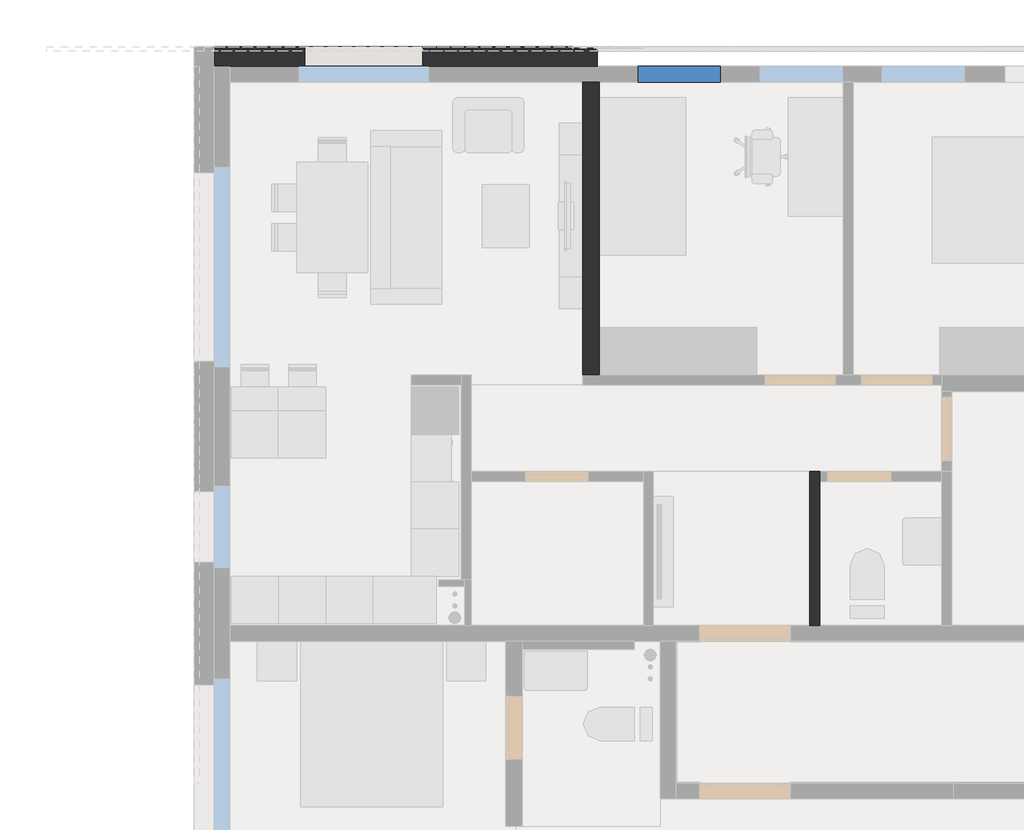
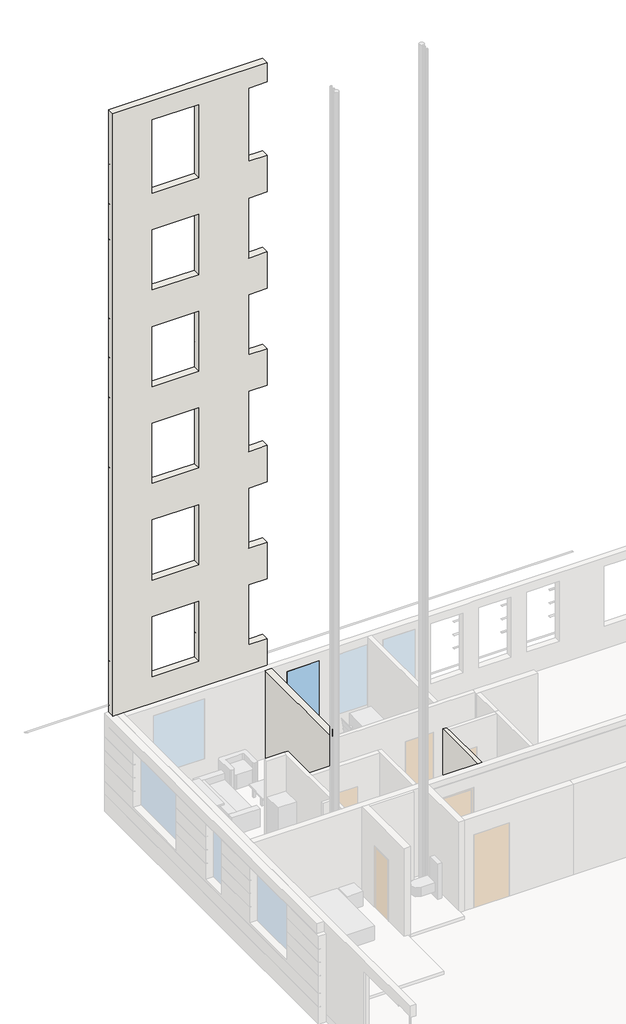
# One storey, part 4 of 11: 3 walls, 1 window.
"""IFC4 building model written with IfcOpenShell, lengths in millimetres."""

from ifc_helpers import new_model, si_unit, frame, origin, place, context, project, spatial, polyline, outline, extrude, faceted_brep, transform, mapped, element, save
from components import window_588b83ed

model = new_model("IFC4")

# Units and contexts
model_context = context("Model", 3, world=origin())
ifc_project = project(units=[si_unit("LENGTHUNIT", "METRE", prefix="MILLI")], contexts=[model_context])

# Site, building, storey
site = spatial("IfcSite", under=ifc_project)
building = spatial("IfcBuilding", under=site)
storey = spatial("IfcBuildingStorey", under=building, Name="02_+4,400_Ж", Elevation=1200.0)

# Walls
placement = place(None, origin())
element("IfcWall", 1, ObjectType="BW_THR_EXT_180+60+10=250_2-9 эт минплита под вентфасад и КГ-------", at=placement, inside=storey, context=model_context, shape_type="Brep", body=[
    faceted_brep([(133840.0000001, 128049.9999987, 850.0), (128980.0000001, 128049.9999987, 850.0), (128980.0000001, 128049.9999987, 1425.0), (133840.0000001, 128049.9999987, 1425.0), (128855.0000001, 128049.9999987, 24750.0), (133840.0000001, 128049.9999987, 24750.0), (133840.0000001, 128049.9999987, 24710.0), (128855.0000001, 128049.9999987, 24710.0), (128855.0000001, 128049.9999987, 24705.0), (133840.0000001, 128049.9999987, 24705.0), (133840.0000001, 128049.9999987, 24105.0), (128855.0000001, 128049.9999987, 24105.0), (128855.0000001, 128049.9999987, 24100.0), (130130.0000001, 128049.9999987, 24100.0), (130130.0000001, 128049.9999987, 23840.0), (128855.0000001, 128049.9999987, 23840.0), (131630.0000001, 128049.9999987, 24100.0), (133230.0000001, 128049.9999987, 24100.0), (133230.0000001, 128049.9999987, 23840.0), (131630.0000001, 128049.9999987, 23840.0), (131630.0000001, 128049.9999987, 23835.0), (133230.0000001, 128049.9999987, 23835.0), (133230.0000001, 128049.9999987, 23385.0), (131630.0000001, 128049.9999987, 23385.0), (131630.0000001, 128049.9999987, 23380.0), (133230.0000001, 128049.9999987, 23380.0), (133230.0000001, 128049.9999987, 22930.0), (131630.0000001, 128049.9999987, 22930.0), (131630.0000001, 128049.9999987, 22925.0), (133230.0000001, 128049.9999987, 22925.0), (133230.0000001, 128049.9999987, 22475.0), (131630.0000001, 128049.9999987, 22475.0), (131630.0000001, 128049.9999987, 22470.0), (133230.0000001, 128049.9999987, 22470.0), (133230.0000001, 128049.9999987, 22020.0), (131630.0000001, 128049.9999987, 22020.0), (131630.0000001, 128049.9999987, 22015.0), (133230.0000001, 128049.9999987, 22015.0), (133230.0000001, 128049.9999987, 21600.0), (133840.0000001, 128049.9999987, 21600.0), (133840.0000001, 128049.9999987, 21565.0), (128855.0000001, 128049.9999987, 21565.0), (128855.0000001, 128049.9999987, 22015.0), (130130.0000001, 128049.9999987, 22015.0), (130130.0000001, 128049.9999987, 21600.0), (131630.0000001, 128049.9999987, 21600.0), (128855.0000001, 128049.9999987, 21560.0), (133840.0000001, 128049.9999987, 21560.0), (133840.0000001, 128049.9999987, 20960.0), (128855.0000001, 128049.9999987, 20960.0), (128855.0000001, 128049.9999987, 20955.0), (133840.0000001, 128049.9999987, 20955.0), (133840.0000001, 128049.9999987, 20355.0), (128855.0000001, 128049.9999987, 20355.0), (128855.0000001, 128049.9999987, 20350.0), (130130.0000001, 128049.9999987, 20350.0), (130130.0000001, 128049.9999987, 20085.0), (128855.0000001, 128049.9999987, 20085.0), (128855.0000001, 128049.9999987, 20087.0), (131630.0000001, 128049.9999987, 20350.0), (132330.0000001, 128049.9999987, 20350.0), (132330.0000001, 128049.9999987, 20085.0), (131630.0000001, 128049.9999987, 20085.0), (131630.0000001, 128049.9999987, 20080.0), (132330.0000001, 128049.9999987, 20080.0), (132330.0000001, 128049.9999987, 19630.0), (131630.0000001, 128049.9999987, 19630.0), (131630.0000001, 128049.9999987, 19625.0), (132330.0000001, 128049.9999987, 19625.0), (132330.0000001, 128049.9999987, 19175.0), (131630.0000001, 128049.9999987, 19175.0), (131630.0000001, 128049.9999987, 19170.0), (132330.0000001, 128049.9999987, 19170.0), (132330.0000001, 128049.9999987, 18720.0), (131630.0000001, 128049.9999987, 18720.0), (131630.0000001, 128049.9999987, 18715.0), (132330.0000001, 128049.9999987, 18715.0), (132330.0000001, 128049.9999987, 18265.0), (128855.0000001, 128049.9999987, 18265.0), (128855.0000001, 128049.9999987, 18715.0), (130130.0000001, 128049.9999987, 18715.0), (130130.0000001, 128049.9999987, 18300.0), (131630.0000001, 128049.9999987, 18300.0), (128855.0000001, 128049.9999987, 18260.0), (133840.0000001, 128049.9999987, 18260.0), (133840.0000001, 128049.9999987, 17660.0), (128855.0000001, 128049.9999987, 17660.0), (128855.0000001, 128049.9999987, 17655.0), (133840.0000001, 128049.9999987, 17655.0), (133840.0000001, 128049.9999987, 17055.0), (128855.0000001, 128049.9999987, 17055.0), (128855.0000001, 128049.9999987, 17050.0), (130130.0000001, 128049.9999987, 17050.0), (130130.0000001, 128049.9999987, 16785.0), (128855.0000001, 128049.9999987, 16785.0), (132530.0000001, 128049.9999987, 17050.0), (133230.0000001, 128049.9999987, 17050.0), (133230.0000001, 128049.9999987, 16785.0), (132530.0000001, 128049.9999987, 16785.0), (132530.0000001, 128049.9999987, 16325.0), (133230.0000001, 128049.9999987, 16325.0), (133230.0000001, 128049.9999987, 15875.0), (132530.0000001, 128049.9999987, 15875.0), (133230.0000001, 128049.9999987, 16330.0), (132530.0000001, 128049.9999987, 16330.0), (132530.0000001, 128049.9999987, 16780.0), (133230.0000001, 128049.9999987, 16780.0), (132530.0000001, 128049.9999987, 15415.0), (133230.0000001, 128049.9999987, 15415.0), (133230.0000001, 128049.9999987, 15000.0), (133840.0000001, 128049.9999987, 15000.0), (133840.0000001, 128049.9999987, 14965.0), (132530.0000001, 128049.9999987, 14965.0), (133230.0000001, 128049.9999987, 15420.0), (132530.0000001, 128049.9999987, 15420.0), (132530.0000001, 128049.9999987, 15870.0), (133230.0000001, 128049.9999987, 15870.0), (128855.0000001, 128049.9999987, 14960.0), (133840.0000001, 128049.9999987, 14960.0), (133840.0000001, 128049.9999987, 14360.0), (128855.0000001, 128049.9999987, 14360.0), (131630.0000001, 128049.9999987, 14965.0), (128855.0000001, 128049.9999987, 14965.0), (128855.0000001, 128049.9999987, 15415.0), (130130.0000001, 128049.9999987, 15415.0), (130130.0000001, 128049.9999987, 15000.0), (131630.0000001, 128049.9999987, 15000.0), (128855.0000001, 128049.9999987, 14355.0), (133840.0000001, 128049.9999987, 14355.0), (133840.0000001, 128049.9999987, 13755.0), (128855.0000001, 128049.9999987, 13755.0), (128855.0000001, 128049.9999987, 13750.0), (130130.0000001, 128049.9999987, 13750.0), (130130.0000001, 128049.9999987, 13485.0), (128855.0000001, 128049.9999987, 13485.0), (131630.0000001, 128049.9999987, 13750.0), (133230.0000001, 128049.9999987, 13750.0), (133230.0000001, 128049.9999987, 13485.0), (131630.0000001, 128049.9999987, 13485.0), (131630.0000001, 128049.9999987, 13480.0), (133230.0000001, 128049.9999987, 13480.0), (133230.0000001, 128049.9999987, 13030.0), (131630.0000001, 128049.9999987, 13030.0), (131630.0000001, 128049.9999987, 13025.0), (133230.0000001, 128049.9999987, 13025.0), (133230.0000001, 128049.9999987, 12575.0), (131630.0000001, 128049.9999987, 12575.0), (131630.0000001, 128049.9999987, 12570.0), (133230.0000001, 128049.9999987, 12570.0), (133230.0000001, 128049.9999987, 12120.0), (131630.0000001, 128049.9999987, 12120.0), (131630.0000001, 128049.9999987, 12115.0), (133230.0000001, 128049.9999987, 12115.0), (133230.0000001, 128049.9999987, 11700.0), (133840.0000001, 128049.9999987, 11700.0), (133840.0000001, 128049.9999987, 11665.0), (128855.0000001, 128049.9999987, 11665.0), (128855.0000001, 128049.9999987, 12115.0), (130130.0000001, 128049.9999987, 12115.0), (130130.0000001, 128049.9999987, 11700.0), (131630.0000001, 128049.9999987, 11700.0), (128855.0000001, 128049.9999987, 11660.0), (133840.0000001, 128049.9999987, 11660.0), (133840.0000001, 128049.9999987, 11060.0), (128855.0000001, 128049.9999987, 11060.0), (128855.0000001, 128049.9999987, 11055.0), (133840.0000001, 128049.9999987, 11055.0), (133840.0000001, 128049.9999987, 10455.0), (128855.0000001, 128049.9999987, 10455.0), (128855.0000001, 128049.9999987, 10450.0), (130130.0000001, 128049.9999987, 10450.0), (130130.0000001, 128049.9999987, 10185.0), (128855.0000001, 128049.9999987, 10185.0), (131630.0000001, 128049.9999987, 10450.0), (133230.0000001, 128049.9999987, 10450.0), (133230.0000001, 128049.9999987, 10185.0), (131630.0000001, 128049.9999987, 10185.0), (131630.0000001, 128049.9999987, 10180.0), (133230.0000001, 128049.9999987, 10180.0), (133230.0000001, 128049.9999987, 9730.0), (131630.0000001, 128049.9999987, 9730.0), (131630.0000001, 128049.9999987, 9725.0), (133230.0000001, 128049.9999987, 9725.0), (133230.0000001, 128049.9999987, 9275.0), (131630.0000001, 128049.9999987, 9275.0), (131630.0000001, 128049.9999987, 9270.0), (133230.0000001, 128049.9999987, 9270.0), (133230.0000001, 128049.9999987, 8820.0), (131630.0000001, 128049.9999987, 8820.0), (131630.0000001, 128049.9999987, 8815.0), (133230.0000001, 128049.9999987, 8815.0), (133230.0000001, 128049.9999987, 8400.0), (133840.0000001, 128049.9999987, 8400.0), (133840.0000001, 128049.9999987, 8365.0), (128855.0000001, 128049.9999987, 8365.0), (128855.0000001, 128049.9999987, 8815.0), (130130.0000001, 128049.9999987, 8815.0), (130130.0000001, 128049.9999987, 8400.0), (131630.0000001, 128049.9999987, 8400.0), (128855.0000001, 128049.9999987, 8360.0), (133840.0000001, 128049.9999987, 8360.0), (133840.0000001, 128049.9999987, 7760.0), (128855.0000001, 128049.9999987, 7760.0), (128855.0000001, 128049.9999987, 7755.0), (133840.0000001, 128049.9999987, 7755.0), (133840.0000001, 128049.9999987, 7155.0), (128855.0000001, 128049.9999987, 7155.0), (128855.0000001, 128049.9999987, 7150.0), (130130.0000001, 128049.9999987, 7150.0), (130130.0000001, 128049.9999987, 6885.0), (128855.0000001, 128049.9999987, 6885.0), (131630.0000001, 128049.9999987, 7150.0), (133230.0000001, 128049.9999987, 7150.0), (133230.0000001, 128049.9999987, 6885.0), (131630.0000001, 128049.9999987, 6885.0), (131630.0000001, 128049.9999987, 6880.0), (133230.0000001, 128049.9999987, 6880.0), (133230.0000001, 128049.9999987, 6430.0), (131630.0000001, 128049.9999987, 6430.0), (131630.0000001, 128049.9999987, 6425.0), (133230.0000001, 128049.9999987, 6425.0), (133230.0000001, 128049.9999987, 5975.0), (131630.0000001, 128049.9999987, 5975.0), (131630.0000001, 128049.9999987, 5970.0), (133230.0000001, 128049.9999987, 5970.0), (133230.0000001, 128049.9999987, 5520.0), (131630.0000001, 128049.9999987, 5520.0), (131630.0000001, 128049.9999987, 5515.0), (133230.0000001, 128049.9999987, 5515.0), (133230.0000001, 128049.9999987, 5100.0), (133840.0000001, 128049.9999987, 5100.0), (133840.0000001, 128049.9999987, 5065.0), (128855.0000001, 128049.9999987, 5065.0), (128855.0000001, 128049.9999987, 5515.0), (130130.0000001, 128049.9999987, 5515.0), (130130.0000001, 128049.9999987, 5100.0), (131630.0000001, 128049.9999987, 5100.0), (128855.0000001, 128049.9999987, 5060.0), (133840.0000001, 128049.9999987, 5060.0), (133840.0000001, 128049.9999987, 4460.0), (128855.0000001, 128049.9999987, 4460.0), (128855.0000001, 128049.9999987, 4455.0), (133840.0000001, 128049.9999987, 4455.0), (133840.0000001, 128049.9999987, 3855.0), (128980.0000001, 128049.9999987, 3855.0), (128980.0000001, 128049.9999987, 4200.0), (128855.0000001, 128049.9999987, 4200.0), (128980.0000001, 128049.9999987, 3850.0), (130130.0000001, 128049.9999987, 3850.0), (130130.0000001, 128049.9999987, 3400.0), (128980.0000001, 128049.9999987, 3400.0), (131630.0000001, 128049.9999987, 3395.0), (133530.0000001, 128049.9999987, 3395.0), (133530.0000001, 128049.9999987, 2945.0), (131630.0000001, 128049.9999987, 2945.0), (133530.0000001, 128049.9999987, 3400.0), (131630.0000001, 128049.9999987, 3400.0), (131630.0000001, 128049.9999987, 3850.0), (133530.0000001, 128049.9999987, 3850.0), (131630.0000001, 128049.9999987, 2940.0), (133530.0000001, 128049.9999987, 2940.0), (133530.0000001, 128049.9999987, 2490.0), (131630.0000001, 128049.9999987, 2490.0), (131630.0000001, 128049.9999987, 2485.0), (133530.0000001, 128049.9999987, 2485.0), (133530.0000001, 128049.9999987, 1885.0), (128980.0000001, 128049.9999987, 1885.0), (128980.0000001, 128049.9999987, 2485.0), (130130.0000001, 128049.9999987, 2485.0), (130130.0000001, 128049.9999987, 1950.0), (131630.0000001, 128049.9999987, 1950.0), (128980.0000001, 128049.9999987, 1880.0), (133840.0000001, 128049.9999987, 1880.0), (133840.0000001, 128049.9999987, 1430.0), (128980.0000001, 128049.9999987, 1430.0), (128980.0000001, 128049.9999987, 3395.0), (130130.0000001, 128049.9999987, 3395.0), (130130.0000001, 128049.9999987, 2945.0), (128980.0000001, 128049.9999987, 2945.0), (128980.0000001, 128049.9999987, 2940.0), (130130.0000001, 128049.9999987, 2940.0), (130130.0000001, 128049.9999987, 2490.0), (128980.0000001, 128049.9999987, 2490.0), (130130.0000001, 128049.9999987, 19630.0), (128855.0000001, 128049.9999987, 19630.0), (128855.0000001, 128049.9999987, 20080.0), (130130.0000001, 128049.9999987, 20080.0), (128855.0000001, 128049.9999987, 19625.0), (130130.0000001, 128049.9999987, 19625.0), (130130.0000001, 128049.9999987, 19175.0), (128855.0000001, 128049.9999987, 19175.0), (130130.0000001, 128049.9999987, 18720.0), (128855.0000001, 128049.9999987, 18720.0), (128855.0000001, 128049.9999987, 19170.0), (130130.0000001, 128049.9999987, 19170.0), (128855.0000001, 128049.9999987, 16780.0), (130130.0000001, 128049.9999987, 16780.0), (130130.0000001, 128049.9999987, 16330.0), (128855.0000001, 128049.9999987, 16330.0), (128855.0000001, 128049.9999987, 16325.0), (130130.0000001, 128049.9999987, 16325.0), (130130.0000001, 128049.9999987, 15875.0), (128855.0000001, 128049.9999987, 15875.0), (128855.0000001, 128049.9999987, 15870.0), (130130.0000001, 128049.9999987, 15870.0), (130130.0000001, 128049.9999987, 15420.0), (128855.0000001, 128049.9999987, 15420.0), (128855.0000001, 128049.9999987, 13480.0), (130130.0000001, 128049.9999987, 13480.0), (130130.0000001, 128049.9999987, 13030.0), (128855.0000001, 128049.9999987, 13030.0), (128855.0000001, 128049.9999987, 13025.0), (130130.0000001, 128049.9999987, 13025.0), (130130.0000001, 128049.9999987, 12575.0), (128855.0000001, 128049.9999987, 12575.0), (128855.0000001, 128049.9999987, 12570.0), (130130.0000001, 128049.9999987, 12570.0), (130130.0000001, 128049.9999987, 12120.0), (128855.0000001, 128049.9999987, 12120.0), (128855.0000001, 128049.9999987, 6880.0), (130130.0000001, 128049.9999987, 6880.0), (130130.0000001, 128049.9999987, 6430.0), (128855.0000001, 128049.9999987, 6430.0), (128855.0000001, 128049.9999987, 6425.0), (130130.0000001, 128049.9999987, 6425.0), (130130.0000001, 128049.9999987, 5975.0), (128855.0000001, 128049.9999987, 5975.0), (128855.0000001, 128049.9999987, 5970.0), (130130.0000001, 128049.9999987, 5970.0), (130130.0000001, 128049.9999987, 5520.0), (128855.0000001, 128049.9999987, 5520.0), (128855.0000001, 128049.9999987, 23835.0), (130130.0000001, 128049.9999987, 23835.0), (130130.0000001, 128049.9999987, 23385.0), (128855.0000001, 128049.9999987, 23385.0), (128855.0000001, 128049.9999987, 23380.0), (130130.0000001, 128049.9999987, 23380.0), (130130.0000001, 128049.9999987, 22930.0), (128855.0000001, 128049.9999987, 22930.0), (128855.0000001, 128049.9999987, 22925.0), (130130.0000001, 128049.9999987, 22925.0), (130130.0000001, 128049.9999987, 22475.0), (128855.0000001, 128049.9999987, 22475.0), (128855.0000001, 128049.9999987, 22470.0), (130130.0000001, 128049.9999987, 22470.0), (130130.0000001, 128049.9999987, 22020.0), (128855.0000001, 128049.9999987, 22020.0), (128855.0000001, 128049.9999987, 9730.0), (128855.0000001, 128049.9999987, 10180.0), (130130.0000001, 128049.9999987, 10180.0), (130130.0000001, 128049.9999987, 9730.0), (128855.0000001, 128049.9999987, 9275.0), (128855.0000001, 128049.9999987, 9725.0), (130130.0000001, 128049.9999987, 9725.0), (130130.0000001, 128049.9999987, 9275.0), (128855.0000001, 128049.9999987, 8820.0), (128855.0000001, 128049.9999987, 9270.0), (130130.0000001, 128049.9999987, 9270.0), (130130.0000001, 128049.9999987, 8820.0), (133840.0000001, 128049.9999987, 18265.0), (133230.0000001, 128049.9999987, 18265.0), (133230.0000001, 128049.9999987, 18300.0), (133840.0000001, 128049.9999987, 18300.0), (128980.0000001, 127799.9999987, 850.0), (133840.0000001, 127799.9999987, 850.0), (133840.0000001, 127799.9999987, 5030.0), (133840.0000001, 127799.9999987, 5100.0), (133230.0000001, 127799.9999987, 5100.0), (133230.0000001, 127799.9999987, 7150.0), (133840.0000001, 127799.9999987, 7150.0), (133840.0000001, 127799.9999987, 7220.0), (133840.0000001, 127799.9999987, 8330.0), (133840.0000001, 127799.9999987, 8400.0), (133230.0000001, 127799.9999987, 8400.0), (133230.0000001, 127799.9999987, 10450.0), (133840.0000001, 127799.9999987, 10450.0), (133840.0000001, 127799.9999987, 10520.0), (133840.0000001, 127799.9999987, 11630.0), (133840.0000001, 127799.9999987, 11700.0), (133230.0000001, 127799.9999987, 11700.0), (133230.0000001, 127799.9999987, 13750.0), (133840.0000001, 127799.9999987, 13750.0), (133840.0000001, 127799.9999987, 13820.0), (133840.0000001, 127799.9999987, 14930.0), (133840.0000001, 127799.9999987, 15000.0), (133230.0000001, 127799.9999987, 15000.0), (133230.0000001, 127799.9999987, 17050.0), (133840.0000001, 127799.9999987, 17050.0), (133840.0000001, 127799.9999987, 17120.0), (133840.0000001, 127799.9999987, 18230.0), (133840.0000001, 127799.9999987, 18300.0), (133230.0000001, 127799.9999987, 18300.0), (133230.0000001, 127799.9999987, 20350.0), (133840.0000001, 127799.9999987, 20350.0), (133840.0000001, 127799.9999987, 20420.0), (133840.0000001, 127799.9999987, 21530.0), (133840.0000001, 127799.9999987, 21600.0), (133230.0000001, 127799.9999987, 21600.0), (133230.0000001, 127799.9999987, 24100.0), (133840.0000001, 127799.9999987, 24100.0), (133840.0000001, 127799.9999987, 24170.0), (133840.0000001, 127799.9999987, 24750.0), (128855.0000001, 127799.9999987, 24750.0), (128855.0000001, 127799.9999987, 4200.0), (128980.0000001, 127799.9999987, 4200.0), (130130.0000001, 127799.9999987, 17050.0), (131630.0000001, 127799.9999987, 17050.0), (131630.0000001, 127799.9999987, 15000.0), (130130.0000001, 127799.9999987, 15000.0), (130130.0000001, 127799.9999987, 20350.0), (131630.0000001, 127799.9999987, 20350.0), (131630.0000001, 127799.9999987, 18300.0), (130130.0000001, 127799.9999987, 18300.0), (130130.0000001, 127799.9999987, 10450.0), (131630.0000001, 127799.9999987, 10450.0), (131630.0000001, 127799.9999987, 8400.0), (130130.0000001, 127799.9999987, 8400.0), (130130.0000001, 127799.9999987, 24100.0), (131630.0000001, 127799.9999987, 24100.0), (131630.0000001, 127799.9999987, 21600.0), (130130.0000001, 127799.9999987, 21600.0), (130130.0000001, 127799.9999987, 13750.0), (131630.0000001, 127799.9999987, 13750.0), (131630.0000001, 127799.9999987, 11700.0), (130130.0000001, 127799.9999987, 11700.0), (130130.0000001, 127799.9999987, 7150.0), (131630.0000001, 127799.9999987, 7150.0), (131630.0000001, 127799.9999987, 5100.0), (130130.0000001, 127799.9999987, 5100.0), (130130.0000001, 127799.9999987, 3850.0), (131630.0000001, 127799.9999987, 3850.0), (131630.0000001, 127799.9999987, 1950.0), (130130.0000001, 127799.9999987, 1950.0), (133840.0000001, 127989.9999987, 24100.0), (133840.0000001, 127989.9999987, 24105.0), (133840.0000001, 127989.9999987, 24705.0), (133840.0000001, 127989.9999987, 24710.0), (133840.0000001, 127989.9999987, 1425.0), (133840.0000001, 127989.9999987, 1430.0), (133840.0000001, 127989.9999987, 1880.0), (133840.0000001, 127989.9999987, 1885.0), (133840.0000001, 128029.9999987, 1885.0), (133840.0000001, 128029.9999987, 2485.0), (133840.0000001, 127989.9999987, 2485.0), (133840.0000001, 127989.9999987, 2490.0), (133840.0000001, 128029.9999987, 2490.0), (133840.0000001, 128029.9999987, 3395.0), (133840.0000001, 127989.9999987, 3395.0), (133840.0000001, 127989.9999987, 3400.0), (133840.0000001, 128029.9999987, 3400.0), (133840.0000001, 128029.9999987, 3850.0), (133840.0000001, 127989.9999987, 3850.0), (133840.0000001, 127989.9999987, 3855.0), (133840.0000001, 127989.9999987, 4455.0), (133840.0000001, 127989.9999987, 4460.0), (133840.0000001, 127989.9999987, 5060.0), (133840.0000001, 127989.9999987, 5065.0), (133840.0000001, 127989.9999987, 21560.0), (133840.0000001, 127989.9999987, 21565.0), (133840.0000001, 127989.9999987, 20350.0), (133840.0000001, 127989.9999987, 20355.0), (133840.0000001, 127989.9999987, 20955.0), (133840.0000001, 127989.9999987, 20960.0), (133840.0000001, 127989.9999987, 18260.0), (133840.0000001, 127989.9999987, 18265.0), (133840.0000001, 127989.9999987, 17050.0), (133840.0000001, 127989.9999987, 17055.0), (133840.0000001, 127989.9999987, 17655.0), (133840.0000001, 127989.9999987, 17660.0), (133840.0000001, 127989.9999987, 14960.0), (133840.0000001, 127989.9999987, 14965.0), (133840.0000001, 127989.9999987, 13750.0), (133840.0000001, 127989.9999987, 13755.0), (133840.0000001, 127989.9999987, 14355.0), (133840.0000001, 127989.9999987, 14360.0), (133840.0000001, 127989.9999987, 11660.0), (133840.0000001, 127989.9999987, 11665.0), (133840.0000001, 127989.9999987, 10450.0), (133840.0000001, 127989.9999987, 10455.0), (133840.0000001, 127989.9999987, 11055.0), (133840.0000001, 127989.9999987, 11060.0), (133840.0000001, 127989.9999987, 8360.0), (133840.0000001, 127989.9999987, 8365.0), (133840.0000001, 127989.9999987, 7150.0), (133840.0000001, 127989.9999987, 7155.0), (133840.0000001, 127989.9999987, 7755.0), (133840.0000001, 127989.9999987, 7760.0), (128855.0000001, 127989.9999987, 24705.0), (128855.0000001, 127989.9999987, 24710.0), (128855.0000001, 127989.9999987, 24100.0), (130130.0000001, 127989.9999987, 24100.0), (131630.0000001, 127989.9999987, 24100.0), (133230.0000001, 127989.9999987, 24100.0), (128855.0000001, 127989.9999987, 24105.0), (131630.0000001, 127989.9999987, 23835.0), (133230.0000001, 127989.9999987, 23835.0), (131630.0000001, 127989.9999987, 23840.0), (133230.0000001, 127989.9999987, 23840.0), (131630.0000001, 127989.9999987, 23380.0), (133230.0000001, 127989.9999987, 23380.0), (131630.0000001, 127989.9999987, 23385.0), (133230.0000001, 127989.9999987, 23385.0), (131630.0000001, 127989.9999987, 22925.0), (133230.0000001, 127989.9999987, 22925.0), (131630.0000001, 127989.9999987, 22930.0), (133230.0000001, 127989.9999987, 22930.0), (131630.0000001, 127989.9999987, 22470.0), (133230.0000001, 127989.9999987, 22470.0), (131630.0000001, 127989.9999987, 22475.0), (133230.0000001, 127989.9999987, 22475.0), (131630.0000001, 127989.9999987, 22015.0), (133230.0000001, 127989.9999987, 22015.0), (131630.0000001, 127989.9999987, 22020.0), (133230.0000001, 127989.9999987, 22020.0), (128855.0000001, 127989.9999987, 21560.0), (128855.0000001, 127989.9999987, 21565.0), (128855.0000001, 127989.9999987, 20955.0), (128855.0000001, 127989.9999987, 20960.0), (128855.0000001, 127989.9999987, 20350.0), (130130.0000001, 127989.9999987, 20350.0), (131630.0000001, 127989.9999987, 20350.0), (133230.0000001, 127989.9999987, 20350.0), (133230.0000001, 128029.9999987, 20350.0), (132330.0000001, 128029.9999987, 20350.0), (128855.0000001, 127989.9999987, 20355.0), (131630.0000001, 127989.9999987, 20080.0), (133230.0000001, 127989.9999987, 20080.0), (133230.0000001, 128029.9999987, 20080.0), (132330.0000001, 128029.9999987, 20080.0), (131630.0000001, 127989.9999987, 20085.0), (133230.0000001, 127989.9999987, 20085.0), (132330.0000001, 128029.9999987, 20085.0), (133230.0000001, 128029.9999987, 20085.0), (132330.0000001, 127989.9999987, 19625.0), (132330.0000001, 127989.9999987, 19630.0), (132330.0000001, 128029.9999987, 19630.0), (132330.0000001, 128029.9999987, 19625.0), (131630.0000001, 127989.9999987, 19625.0), (131630.0000001, 127989.9999987, 19630.0), (131630.0000001, 127989.9999987, 19170.0), (133230.0000001, 127989.9999987, 19170.0), (133230.0000001, 128029.9999987, 19170.0), (132330.0000001, 128029.9999987, 19170.0), (131630.0000001, 127989.9999987, 19175.0), (133230.0000001, 127989.9999987, 19175.0), (132330.0000001, 128029.9999987, 19175.0), (133230.0000001, 128029.9999987, 19175.0), (132330.0000001, 127989.9999987, 18715.0), (132330.0000001, 127989.9999987, 18720.0), (132330.0000001, 128029.9999987, 18720.0), (132330.0000001, 128029.9999987, 18715.0), (131630.0000001, 127989.9999987, 18715.0), (131630.0000001, 127989.9999987, 18720.0), (128855.0000001, 127989.9999987, 18260.0), (128855.0000001, 127989.9999987, 18265.0), (132330.0000001, 128029.9999987, 18265.0), (133230.0000001, 128029.9999987, 18265.0), (128855.0000001, 127989.9999987, 17655.0), (128855.0000001, 127989.9999987, 17660.0), (128855.0000001, 127989.9999987, 17050.0), (130130.0000001, 127989.9999987, 17050.0), (132530.0000001, 128029.9999987, 17050.0), (131630.0000001, 128029.9999987, 17050.0), (131630.0000001, 127989.9999987, 17050.0), (133230.0000001, 127989.9999987, 17050.0), (128855.0000001, 127989.9999987, 17055.0), (131630.0000001, 127989.9999987, 16780.0), (133230.0000001, 127989.9999987, 16780.0), (132530.0000001, 128029.9999987, 16780.0), (131630.0000001, 128029.9999987, 16780.0), (131630.0000001, 127989.9999987, 16785.0), (133230.0000001, 127989.9999987, 16785.0), (131630.0000001, 128029.9999987, 16785.0), (132530.0000001, 128029.9999987, 16785.0), (132530.0000001, 127989.9999987, 16330.0), (132530.0000001, 127989.9999987, 16325.0), (132530.0000001, 128029.9999987, 16325.0), (132530.0000001, 128029.9999987, 16330.0), (133230.0000001, 127989.9999987, 16325.0), (133230.0000001, 127989.9999987, 16330.0), (131630.0000001, 127989.9999987, 15870.0), (133230.0000001, 127989.9999987, 15870.0), (132530.0000001, 128029.9999987, 15870.0), (131630.0000001, 128029.9999987, 15870.0), (131630.0000001, 127989.9999987, 15875.0), (133230.0000001, 127989.9999987, 15875.0), (131630.0000001, 128029.9999987, 15875.0), (132530.0000001, 128029.9999987, 15875.0), (132530.0000001, 127989.9999987, 15420.0), (132530.0000001, 127989.9999987, 15415.0), (132530.0000001, 128029.9999987, 15415.0), (132530.0000001, 128029.9999987, 15420.0), (133230.0000001, 127989.9999987, 15415.0), (133230.0000001, 127989.9999987, 15420.0), (128855.0000001, 127989.9999987, 14960.0), (128855.0000001, 127989.9999987, 14965.0), (131630.0000001, 128029.9999987, 14965.0), (132530.0000001, 128029.9999987, 14965.0), (128855.0000001, 127989.9999987, 14355.0), (128855.0000001, 127989.9999987, 14360.0), (128855.0000001, 127989.9999987, 13750.0), (130130.0000001, 127989.9999987, 13750.0), (131630.0000001, 127989.9999987, 13750.0), (133230.0000001, 127989.9999987, 13750.0), (128855.0000001, 127989.9999987, 13755.0), (131630.0000001, 127989.9999987, 13480.0), (133230.0000001, 127989.9999987, 13480.0), (131630.0000001, 127989.9999987, 13485.0), (133230.0000001, 127989.9999987, 13485.0), (131630.0000001, 127989.9999987, 13025.0), (133230.0000001, 127989.9999987, 13025.0), (131630.0000001, 127989.9999987, 13030.0), (133230.0000001, 127989.9999987, 13030.0), (131630.0000001, 127989.9999987, 12570.0), (133230.0000001, 127989.9999987, 12570.0), (131630.0000001, 127989.9999987, 12575.0), (133230.0000001, 127989.9999987, 12575.0), (131630.0000001, 127989.9999987, 12115.0), (133230.0000001, 127989.9999987, 12115.0), (131630.0000001, 127989.9999987, 12120.0), (133230.0000001, 127989.9999987, 12120.0), (128855.0000001, 127989.9999987, 11660.0), (128855.0000001, 127989.9999987, 11665.0), (128855.0000001, 127989.9999987, 11055.0), (128855.0000001, 127989.9999987, 11060.0), (128855.0000001, 127989.9999987, 10450.0), (130130.0000001, 127989.9999987, 10450.0), (131630.0000001, 127989.9999987, 10450.0), (133230.0000001, 127989.9999987, 10450.0), (128855.0000001, 127989.9999987, 10455.0), (131630.0000001, 127989.9999987, 10180.0), (133230.0000001, 127989.9999987, 10180.0), (131630.0000001, 127989.9999987, 10185.0), (133230.0000001, 127989.9999987, 10185.0), (131630.0000001, 127989.9999987, 9725.0), (133230.0000001, 127989.9999987, 9725.0), (131630.0000001, 127989.9999987, 9730.0), (133230.0000001, 127989.9999987, 9730.0), (131630.0000001, 127989.9999987, 9270.0), (133230.0000001, 127989.9999987, 9270.0), (131630.0000001, 127989.9999987, 9275.0), (133230.0000001, 127989.9999987, 9275.0), (131630.0000001, 127989.9999987, 8815.0), (133230.0000001, 127989.9999987, 8815.0), (131630.0000001, 127989.9999987, 8820.0), (133230.0000001, 127989.9999987, 8820.0), (128855.0000001, 127989.9999987, 8360.0), (128855.0000001, 127989.9999987, 8365.0), (128855.0000001, 127989.9999987, 7755.0), (128855.0000001, 127989.9999987, 7760.0), (128855.0000001, 127989.9999987, 7150.0), (130130.0000001, 127989.9999987, 7150.0), (131630.0000001, 127989.9999987, 7150.0), (133230.0000001, 127989.9999987, 7150.0), (128855.0000001, 127989.9999987, 7155.0), (131630.0000001, 127989.9999987, 6880.0), (133230.0000001, 127989.9999987, 6880.0), (131630.0000001, 127989.9999987, 6885.0), (133230.0000001, 127989.9999987, 6885.0), (131630.0000001, 127989.9999987, 6425.0), (133230.0000001, 127989.9999987, 6425.0), (131630.0000001, 127989.9999987, 6430.0), (133230.0000001, 127989.9999987, 6430.0), (131630.0000001, 127989.9999987, 5970.0), (133230.0000001, 127989.9999987, 5970.0), (131630.0000001, 127989.9999987, 5975.0), (133230.0000001, 127989.9999987, 5975.0), (131630.0000001, 127989.9999987, 5515.0), (133230.0000001, 127989.9999987, 5515.0), (131630.0000001, 127989.9999987, 5520.0), (133230.0000001, 127989.9999987, 5520.0), (128855.0000001, 127989.9999987, 5060.0), (128855.0000001, 127989.9999987, 5065.0), (128855.0000001, 127989.9999987, 4455.0), (128855.0000001, 127989.9999987, 4460.0), (128980.0000001, 127989.9999987, 3850.0), (130130.0000001, 127989.9999987, 3850.0), (131630.0000001, 127989.9999987, 3850.0), (133530.0000001, 128029.9999987, 3850.0), (128980.0000001, 127989.9999987, 3855.0), (131630.0000001, 127989.9999987, 3395.0), (133530.0000001, 128029.9999987, 3395.0), (131630.0000001, 127989.9999987, 3400.0), (133530.0000001, 128029.9999987, 3400.0), (133530.0000001, 127989.9999987, 2940.0), (133530.0000001, 127989.9999987, 2945.0), (133530.0000001, 128029.9999987, 2945.0), (133530.0000001, 128029.9999987, 2940.0), (131630.0000001, 127989.9999987, 2940.0), (131630.0000001, 127989.9999987, 2945.0), (131630.0000001, 127989.9999987, 2485.0), (133530.0000001, 128029.9999987, 2485.0), (131630.0000001, 127989.9999987, 2490.0), (133530.0000001, 128029.9999987, 2490.0), (128980.0000001, 127989.9999987, 1880.0), (128980.0000001, 127989.9999987, 1885.0), (133530.0000001, 128029.9999987, 1885.0), (128980.0000001, 127989.9999987, 1425.0), (128980.0000001, 127989.9999987, 1430.0), (130130.0000001, 127989.9999987, 3400.0), (128980.0000001, 127989.9999987, 3400.0), (130130.0000001, 127989.9999987, 3395.0), (128980.0000001, 127989.9999987, 3395.0), (130130.0000001, 127989.9999987, 2945.0), (128980.0000001, 127989.9999987, 2945.0), (130130.0000001, 127989.9999987, 2940.0), (128980.0000001, 127989.9999987, 2940.0), (130130.0000001, 127989.9999987, 2490.0), (128980.0000001, 127989.9999987, 2490.0), (130130.0000001, 127989.9999987, 2485.0), (128980.0000001, 127989.9999987, 2485.0), (128855.0000001, 127989.9999987, 23840.0), (128855.0000001, 127989.9999987, 23835.0), (128855.0000001, 127989.9999987, 23385.0), (128855.0000001, 127989.9999987, 23380.0), (128855.0000001, 127989.9999987, 22930.0), (128855.0000001, 127989.9999987, 22925.0), (128855.0000001, 127989.9999987, 22475.0), (128855.0000001, 127989.9999987, 22470.0), (128855.0000001, 127989.9999987, 22020.0), (128855.0000001, 127989.9999987, 22015.0), (128855.0000001, 127989.9999987, 20085.0), (128855.0000001, 127989.9999987, 20082.0), (128855.0000001, 127989.9999987, 20080.0), (128855.0000001, 127989.9999987, 19630.0), (128855.0000001, 127989.9999987, 19625.0), (128855.0000001, 127989.9999987, 19175.0), (128855.0000001, 127989.9999987, 19170.0), (128855.0000001, 127989.9999987, 18720.0), (128855.0000001, 127989.9999987, 18715.0), (128855.0000001, 127989.9999987, 16785.0), (128855.0000001, 127989.9999987, 16780.0), (128855.0000001, 127989.9999987, 16330.0), (128855.0000001, 127989.9999987, 16325.0), (128855.0000001, 127989.9999987, 15875.0), (128855.0000001, 127989.9999987, 15870.0), (128855.0000001, 127989.9999987, 15420.0), (128855.0000001, 127989.9999987, 15415.0), (128855.0000001, 127989.9999987, 13485.0), (128855.0000001, 127989.9999987, 13480.0), (128855.0000001, 127989.9999987, 13030.0), (128855.0000001, 127989.9999987, 13025.0), (128855.0000001, 127989.9999987, 12575.0), (128855.0000001, 127989.9999987, 12570.0), (128855.0000001, 127989.9999987, 12120.0), (128855.0000001, 127989.9999987, 12115.0), (128855.0000001, 127989.9999987, 10185.0), (128855.0000001, 127989.9999987, 10180.0), (128855.0000001, 127989.9999987, 9730.0), (128855.0000001, 127989.9999987, 9725.0), (128855.0000001, 127989.9999987, 9275.0), (128855.0000001, 127989.9999987, 9270.0), (128855.0000001, 127989.9999987, 8820.0), (128855.0000001, 127989.9999987, 8815.0), (128855.0000001, 127989.9999987, 6885.0), (128855.0000001, 127989.9999987, 6880.0), (128855.0000001, 127989.9999987, 6430.0), (128855.0000001, 127989.9999987, 6425.0), (128855.0000001, 127989.9999987, 5975.0), (128855.0000001, 127989.9999987, 5970.0), (128855.0000001, 127989.9999987, 5520.0), (128855.0000001, 127989.9999987, 5515.0), (130130.0000001, 127989.9999987, 19630.0), (130130.0000001, 127989.9999987, 19625.0), (130130.0000001, 127989.9999987, 18720.0), (130130.0000001, 127989.9999987, 18715.0), (130130.0000001, 127989.9999987, 16785.0), (130130.0000001, 127989.9999987, 16780.0), (130130.0000001, 127989.9999987, 16330.0), (130130.0000001, 127989.9999987, 16325.0), (130130.0000001, 127989.9999987, 15875.0), (130130.0000001, 127989.9999987, 15870.0), (130130.0000001, 127989.9999987, 15420.0), (130130.0000001, 127989.9999987, 15415.0), (130130.0000001, 127989.9999987, 13485.0), (130130.0000001, 127989.9999987, 13480.0), (130130.0000001, 127989.9999987, 13030.0), (130130.0000001, 127989.9999987, 13025.0), (130130.0000001, 127989.9999987, 12575.0), (130130.0000001, 127989.9999987, 12570.0), (130130.0000001, 127989.9999987, 12120.0), (130130.0000001, 127989.9999987, 12115.0), (130130.0000001, 127989.9999987, 6885.0), (130130.0000001, 127989.9999987, 6880.0), (130130.0000001, 127989.9999987, 6430.0), (130130.0000001, 127989.9999987, 6425.0), (130130.0000001, 127989.9999987, 5975.0), (130130.0000001, 127989.9999987, 5970.0), (130130.0000001, 127989.9999987, 5520.0), (130130.0000001, 127989.9999987, 5515.0), (130130.0000001, 127989.9999987, 23840.0), (130130.0000001, 127989.9999987, 23835.0), (130130.0000001, 127989.9999987, 23385.0), (130130.0000001, 127989.9999987, 23380.0), (130130.0000001, 127989.9999987, 22930.0), (130130.0000001, 127989.9999987, 22925.0), (130130.0000001, 127989.9999987, 22475.0), (130130.0000001, 127989.9999987, 22470.0), (130130.0000001, 127989.9999987, 22020.0), (130130.0000001, 127989.9999987, 22015.0), (133230.0000001, 128029.9999987, 18300.0), (131630.0000001, 128029.9999987, 15000.0), (130130.0000001, 127989.9999987, 10185.0), (130130.0000001, 127989.9999987, 10180.0), (130130.0000001, 127989.9999987, 9730.0), (130130.0000001, 127989.9999987, 9725.0), (130130.0000001, 127989.9999987, 9275.0), (130130.0000001, 127989.9999987, 9270.0), (130130.0000001, 127989.9999987, 8820.0), (130130.0000001, 127989.9999987, 8815.0), (130130.0000001, 127989.9999987, 20085.0), (130130.0000001, 127989.9999987, 20080.0), (130130.0000001, 127989.9999987, 19175.0), (130130.0000001, 127989.9999987, 19170.0)], [[[0, 1, 2, 3]], [[4, 5, 6, 7]], [[8, 9, 10, 11]], [[12, 13, 14, 15]], [[16, 17, 18, 19]], [[20, 21, 22, 23]], [[24, 25, 26, 27]], [[28, 29, 30, 31]], [[32, 33, 34, 35]], [[36, 37, 38, 39, 40, 41, 42, 43, 44, 45]], [[46, 47, 48, 49]], [[50, 51, 52, 53]], [[54, 55, 56, 57, 58]], [[59, 60, 61, 62]], [[63, 64, 65, 66]], [[67, 68, 69, 70]], [[71, 72, 73, 74]], [[75, 76, 77, 78, 79, 80, 81, 82]], [[83, 84, 85, 86]], [[87, 88, 89, 90]], [[91, 92, 93, 94]], [[95, 96, 97, 98]], [[99, 100, 101, 102]], [[103, 104, 105, 106]], [[107, 108, 109, 110, 111, 112]], [[113, 114, 115, 116]], [[117, 118, 119, 120]], [[121, 122, 123, 124, 125, 126]], [[127, 128, 129, 130]], [[131, 132, 133, 134]], [[135, 136, 137, 138]], [[139, 140, 141, 142]], [[143, 144, 145, 146]], [[147, 148, 149, 150]], [[151, 152, 153, 154, 155, 156, 157, 158, 159, 160]], [[161, 162, 163, 164]], [[165, 166, 167, 168]], [[169, 170, 171, 172]], [[173, 174, 175, 176]], [[177, 178, 179, 180]], [[181, 182, 183, 184]], [[185, 186, 187, 188]], [[189, 190, 191, 192, 193, 194, 195, 196, 197, 198]], [[199, 200, 201, 202]], [[203, 204, 205, 206]], [[207, 208, 209, 210]], [[211, 212, 213, 214]], [[215, 216, 217, 218]], [[219, 220, 221, 222]], [[223, 224, 225, 226]], [[227, 228, 229, 230, 231, 232, 233, 234, 235, 236]], [[237, 238, 239, 240]], [[241, 242, 243, 244, 245, 246]], [[247, 248, 249, 250]], [[251, 252, 253, 254]], [[255, 256, 257, 258]], [[259, 260, 261, 262]], [[263, 264, 265, 266, 267, 268, 269, 270]], [[271, 272, 273, 274]], [[275, 276, 277, 278]], [[279, 280, 281, 282]], [[283, 284, 285, 286]], [[287, 288, 289, 290]], [[291, 292, 293, 294]], [[295, 296, 297, 298]], [[299, 300, 301, 302]], [[303, 304, 305, 306]], [[307, 308, 309, 310]], [[311, 312, 313, 314]], [[315, 316, 317, 318]], [[319, 320, 321, 322]], [[323, 324, 325, 326]], [[327, 328, 329, 330]], [[331, 332, 333, 334]], [[335, 336, 337, 338]], [[339, 340, 341, 342]], [[343, 344, 345, 346]], [[347, 348, 349, 350]], [[351, 352, 353, 354]], [[355, 356, 357, 358]], [[359, 360, 361, 362]], [[363, 364, 365, 366, 367, 368, 369, 370, 371, 372, 373, 374, 375, 376, 377, 378, 379, 380, 381, 382, 383, 384, 385, 386, 387, 388, 389, 390, 391, 392, 393, 394, 395, 396, 397, 398, 399, 400, 401, 402, 403, 404], [405, 406, 407, 408], [409, 410, 411, 412], [413, 414, 415, 416], [417, 418, 419, 420], [421, 422, 423, 424], [425, 426, 427, 428], [429, 430, 431, 432]], [[1, 0, 364, 363]], [[5, 4, 402, 401]], [[5, 401, 400, 399, 433, 434, 10, 9, 435, 436, 6]], [[364, 0, 3, 437, 438, 273, 272, 439, 440, 441, 442, 443, 444, 445, 446, 447, 448, 449, 450, 451, 452, 243, 242, 453, 454, 239, 238, 455, 456, 231, 230, 366, 365]], [[47, 457, 458, 40, 39, 396, 395, 394, 393, 459, 460, 52, 51, 461, 462, 48]], [[84, 463, 464, 359, 362, 390, 389, 388, 387, 465, 466, 89, 88, 467, 468, 85]], [[118, 469, 470, 111, 110, 384, 383, 382, 381, 471, 472, 129, 128, 473, 474, 119]], [[162, 475, 476, 155, 154, 378, 377, 376, 375, 477, 478, 167, 166, 479, 480, 163]], [[200, 481, 482, 193, 192, 372, 371, 370, 369, 483, 484, 205, 204, 485, 486, 201]], [[435, 9, 8, 487]], [[436, 435, 487, 488]], [[6, 436, 488, 7]], [[13, 12, 489, 490]], [[17, 16, 491, 492]], [[434, 433, 492, 491, 490, 489, 493]], [[10, 434, 493, 11]], [[494, 495, 21, 20]], [[496, 497, 495, 494]], [[497, 496, 19, 18]], [[498, 499, 25, 24]], [[500, 501, 499, 498]], [[501, 500, 23, 22]], [[502, 503, 29, 28]], [[504, 505, 503, 502]], [[505, 504, 27, 26]], [[506, 507, 33, 32]], [[508, 509, 507, 506]], [[509, 508, 31, 30]], [[510, 511, 37, 36]], [[512, 513, 511, 510]], [[513, 512, 35, 34]], [[457, 47, 46, 514]], [[458, 457, 514, 515]], [[40, 458, 515, 41]], [[461, 51, 50, 516]], [[462, 461, 516, 517]], [[48, 462, 517, 49]], [[55, 54, 518, 519]], [[60, 59, 520, 521, 522, 523]], [[460, 459, 521, 520, 519, 518, 524]], [[52, 460, 524, 53]], [[525, 526, 527, 528, 64, 63]], [[529, 530, 526, 525]], [[530, 529, 62, 61, 531, 532]], [[533, 534, 535, 536]], [[537, 533, 536, 68, 67]], [[534, 533, 537, 538]], [[534, 538, 66, 65, 535]], [[539, 540, 541, 542, 72, 71]], [[543, 544, 540, 539]], [[544, 543, 70, 69, 545, 546]], [[547, 548, 549, 550]], [[551, 547, 550, 76, 75]], [[548, 547, 551, 552]], [[548, 552, 74, 73, 549]], [[463, 84, 83, 553]], [[464, 463, 553, 554]], [[359, 464, 554, 78, 77, 555, 556, 360]], [[467, 88, 87, 557]], [[468, 467, 557, 558]], [[85, 468, 558, 86]], [[92, 91, 559, 560]], [[96, 95, 561, 562, 563, 564]], [[466, 465, 564, 563, 560, 559, 565]], [[89, 466, 565, 90]], [[566, 567, 106, 105, 568, 569]], [[570, 571, 567, 566]], [[571, 570, 572, 573, 98, 97]], [[574, 575, 576, 577]], [[575, 578, 100, 99, 576]], [[575, 574, 579, 578]], [[579, 574, 577, 104, 103]], [[580, 581, 116, 115, 582, 583]], [[584, 585, 581, 580]], [[585, 584, 586, 587, 102, 101]], [[588, 589, 590, 591]], [[589, 592, 108, 107, 590]], [[589, 588, 593, 592]], [[593, 588, 591, 114, 113]], [[469, 118, 117, 594]], [[470, 469, 594, 595]], [[111, 470, 595, 122, 121, 596, 597, 112]], [[473, 128, 127, 598]], [[474, 473, 598, 599]], [[119, 474, 599, 120]], [[132, 131, 600, 601]], [[136, 135, 602, 603]], [[472, 471, 603, 602, 601, 600, 604]], [[129, 472, 604, 130]], [[605, 606, 140, 139]], [[607, 608, 606, 605]], [[608, 607, 138, 137]], [[609, 610, 144, 143]], [[611, 612, 610, 609]], [[612, 611, 142, 141]], [[613, 614, 148, 147]], [[615, 616, 614, 613]], [[616, 615, 146, 145]], [[617, 618, 152, 151]], [[619, 620, 618, 617]], [[620, 619, 150, 149]], [[475, 162, 161, 621]], [[476, 475, 621, 622]], [[155, 476, 622, 156]], [[479, 166, 165, 623]], [[480, 479, 623, 624]], [[163, 480, 624, 164]], [[170, 169, 625, 626]], [[174, 173, 627, 628]], [[478, 477, 628, 627, 626, 625, 629]], [[167, 478, 629, 168]], [[630, 631, 178, 177]], [[632, 633, 631, 630]], [[633, 632, 176, 175]], [[634, 635, 182, 181]], [[636, 637, 635, 634]], [[637, 636, 180, 179]], [[638, 639, 186, 185]], [[640, 641, 639, 638]], [[641, 640, 184, 183]], [[642, 643, 190, 189]], [[644, 645, 643, 642]], [[645, 644, 188, 187]], [[481, 200, 199, 646]], [[482, 481, 646, 647]], [[193, 482, 647, 194]], [[485, 204, 203, 648]], [[486, 485, 648, 649]], [[201, 486, 649, 202]], [[208, 207, 650, 651]], [[212, 211, 652, 653]], [[484, 483, 653, 652, 651, 650, 654]], [[205, 484, 654, 206]], [[655, 656, 216, 215]], [[657, 658, 656, 655]], [[658, 657, 214, 213]], [[659, 660, 220, 219]], [[661, 662, 660, 659]], [[662, 661, 218, 217]], [[663, 664, 224, 223]], [[665, 666, 664, 663]], [[666, 665, 222, 221]], [[667, 668, 228, 227]], [[669, 670, 668, 667]], [[670, 669, 226, 225]], [[455, 238, 237, 671]], [[456, 455, 671, 672]], [[231, 456, 672, 232]], [[453, 242, 241, 673]], [[454, 453, 673, 674]], [[239, 454, 674, 240]], [[248, 247, 675, 676]], [[677, 451, 450, 678, 258, 257]], [[452, 451, 677, 676, 675, 679]], [[243, 452, 679, 244]], [[680, 447, 446, 681, 252, 251]], [[682, 448, 447, 680]], [[448, 682, 256, 255, 683, 449]], [[684, 685, 686, 687]], [[688, 684, 687, 260, 259]], [[685, 684, 688, 689]], [[685, 689, 254, 253, 686]], [[690, 443, 442, 691, 264, 263]], [[692, 444, 443, 690]], [[444, 692, 262, 261, 693, 445]], [[439, 272, 271, 694]], [[440, 439, 694, 695]], [[266, 265, 696, 441, 440, 695]], [[697, 437, 3, 2]], [[437, 697, 698, 438]], [[438, 698, 274, 273]], [[699, 700, 250, 249]], [[700, 699, 701, 702]], [[702, 701, 276, 275]], [[703, 704, 278, 277]], [[704, 703, 705, 706]], [[706, 705, 280, 279]], [[707, 708, 282, 281]], [[708, 707, 709, 710]], [[710, 709, 268, 267]], [[402, 4, 7, 488, 487, 8, 11, 493, 489, 12, 15, 711, 712, 331, 334, 713, 714, 335, 338, 715, 716, 339, 342, 717, 718, 343, 346, 719, 720, 42, 41, 515, 514, 46, 49, 517, 516, 50, 53, 524, 518, 54, 58, 57, 721, 722, 723, 285, 284, 724, 725, 287, 290, 726, 727, 293, 292, 728, 729, 79, 78, 554, 553, 83, 86, 558, 557, 87, 90, 565, 559, 91, 94, 730, 731, 295, 298, 732, 733, 299, 302, 734, 735, 303, 306, 736, 737, 123, 122, 595, 594, 117, 120, 599, 598, 127, 130, 604, 600, 131, 134, 738, 739, 307, 310, 740, 741, 311, 314, 742, 743, 315, 318, 744, 745, 157, 156, 622, 621, 161, 164, 624, 623, 165, 168, 629, 625, 169, 172, 746, 747, 348, 347, 748, 749, 352, 351, 750, 751, 356, 355, 752, 753, 195, 194, 647, 646, 199, 202, 649, 648, 203, 206, 654, 650, 207, 210, 754, 755, 319, 322, 756, 757, 323, 326, 758, 759, 327, 330, 760, 761, 233, 232, 672, 671, 237, 240, 674, 673, 241, 246, 403]], [[403, 246, 245, 404]], [[1, 363, 404, 245, 244, 679, 675, 247, 250, 700, 702, 275, 278, 704, 706, 279, 282, 708, 710, 267, 266, 695, 694, 271, 274, 698, 697, 2]], [[762, 724, 284, 283]], [[724, 762, 763, 725]], [[725, 763, 288, 287]], [[764, 728, 292, 291]], [[728, 764, 765, 729]], [[729, 765, 80, 79]], [[766, 730, 94, 93]], [[730, 766, 767, 731]], [[731, 767, 296, 295]], [[768, 732, 298, 297]], [[732, 768, 769, 733]], [[733, 769, 300, 299]], [[770, 734, 302, 301]], [[734, 770, 771, 735]], [[735, 771, 304, 303]], [[772, 736, 306, 305]], [[736, 772, 773, 737]], [[737, 773, 124, 123]], [[774, 738, 134, 133]], [[738, 774, 775, 739]], [[739, 775, 308, 307]], [[776, 740, 310, 309]], [[740, 776, 777, 741]], [[741, 777, 312, 311]], [[778, 742, 314, 313]], [[742, 778, 779, 743]], [[743, 779, 316, 315]], [[780, 744, 318, 317]], [[744, 780, 781, 745]], [[745, 781, 158, 157]], [[782, 754, 210, 209]], [[754, 782, 783, 755]], [[755, 783, 320, 319]], [[784, 756, 322, 321]], [[756, 784, 785, 757]], [[757, 785, 324, 323]], [[786, 758, 326, 325]], [[758, 786, 787, 759]], [[759, 787, 328, 327]], [[788, 760, 330, 329]], [[760, 788, 789, 761]], [[761, 789, 234, 233]], [[790, 711, 15, 14]], [[711, 790, 791, 712]], [[712, 791, 332, 331]], [[792, 713, 334, 333]], [[713, 792, 793, 714]], [[714, 793, 336, 335]], [[794, 715, 338, 337]], [[715, 794, 795, 716]], [[716, 795, 340, 339]], [[796, 717, 342, 341]], [[717, 796, 797, 718]], [[718, 797, 344, 343]], [[798, 719, 346, 345]], [[719, 798, 799, 720]], [[720, 799, 43, 42]], [[252, 681, 686, 253]], [[261, 260, 687, 693]], [[446, 445, 693, 687, 686, 681]], [[691, 696, 265, 264]], [[696, 691, 442, 441]], [[678, 683, 255, 258]], [[683, 678, 450, 449]], [[521, 459, 393, 392]], [[523, 531, 61, 60]], [[531, 523, 522, 532]], [[64, 528, 535, 65]], [[69, 68, 536, 545]], [[528, 527, 546, 545, 536, 535]], [[72, 542, 549, 73]], [[77, 76, 550, 555]], [[542, 541, 800, 556, 555, 550, 549]], [[360, 556, 800, 361]], [[406, 405, 560, 563]], [[561, 573, 572, 562]], [[573, 561, 95, 98]], [[569, 568, 577, 576, 587, 586]], [[568, 105, 104, 577]], [[99, 102, 587, 576]], [[596, 121, 126, 801]], [[583, 582, 591, 590, 597, 596, 801]], [[582, 115, 114, 591]], [[107, 112, 597, 590]], [[802, 746, 172, 171]], [[746, 802, 803, 747]], [[747, 803, 349, 348]], [[804, 748, 347, 350]], [[748, 804, 805, 749]], [[749, 805, 353, 352]], [[806, 750, 351, 354]], [[750, 806, 807, 751]], [[751, 807, 357, 356]], [[808, 752, 355, 358]], [[752, 808, 809, 753]], [[753, 809, 196, 195]], [[810, 721, 57, 56]], [[721, 810, 811, 723, 722]], [[723, 811, 286, 285]], [[812, 726, 290, 289]], [[726, 812, 813, 727]], [[727, 813, 294, 293]], [[369, 368, 653, 483]], [[367, 229, 228, 668, 670, 225, 224, 664, 666, 221, 220, 660, 662, 217, 216, 656, 658, 213, 212, 653, 368]], [[229, 367, 366, 230]], [[381, 380, 603, 471]], [[379, 153, 152, 618, 620, 149, 148, 614, 616, 145, 144, 610, 612, 141, 140, 606, 608, 137, 136, 603, 380]], [[153, 379, 378, 154]], [[387, 386, 564, 465]], [[385, 109, 108, 592, 593, 113, 116, 581, 585, 101, 100, 578, 579, 103, 106, 567, 571, 97, 96, 564, 386]], [[109, 385, 384, 110]], [[399, 398, 492, 433]], [[397, 38, 37, 511, 513, 34, 33, 507, 509, 30, 29, 503, 505, 26, 25, 499, 501, 22, 21, 495, 497, 18, 17, 492, 398]], [[38, 397, 396, 39]], [[408, 125, 124, 773, 772, 305, 304, 771, 770, 301, 300, 769, 768, 297, 296, 767, 766, 93, 92, 560, 405]], [[125, 408, 407, 801, 126]], [[801, 407, 406, 563, 562, 572, 570, 566, 569, 586, 584, 580, 583]], [[375, 374, 628, 477]], [[373, 191, 190, 643, 645, 187, 186, 639, 641, 183, 182, 635, 637, 179, 178, 631, 633, 175, 174, 628, 374]], [[191, 373, 372, 192]], [[391, 800, 541, 540, 544, 546, 527, 526, 530, 532, 522, 521, 392]], [[800, 391, 390, 362, 361]], [[410, 409, 519, 520]], [[412, 81, 80, 765, 764, 291, 294, 813, 812, 289, 288, 763, 762, 283, 286, 811, 810, 56, 55, 519, 409]], [[81, 412, 411, 82]], [[82, 411, 410, 520, 59, 62, 529, 525, 63, 66, 538, 537, 67, 70, 543, 539, 71, 74, 552, 551, 75]], [[414, 413, 626, 627]], [[416, 197, 196, 809, 808, 358, 357, 807, 806, 354, 353, 805, 804, 350, 349, 803, 802, 171, 170, 626, 413]], [[197, 416, 415, 198]], [[198, 415, 414, 627, 173, 176, 632, 630, 177, 180, 636, 634, 181, 184, 640, 638, 185, 188, 644, 642, 189]], [[418, 417, 490, 491]], [[420, 44, 43, 799, 798, 345, 344, 797, 796, 341, 340, 795, 794, 337, 336, 793, 792, 333, 332, 791, 790, 14, 13, 490, 417]], [[44, 420, 419, 45]], [[45, 419, 418, 491, 16, 19, 496, 494, 20, 23, 500, 498, 24, 27, 504, 502, 28, 31, 508, 506, 32, 35, 512, 510, 36]], [[422, 421, 601, 602]], [[424, 159, 158, 781, 780, 317, 316, 779, 778, 313, 312, 777, 776, 309, 308, 775, 774, 133, 132, 601, 421]], [[159, 424, 423, 160]], [[160, 423, 422, 602, 135, 138, 607, 605, 139, 142, 611, 609, 143, 146, 615, 613, 147, 150, 619, 617, 151]], [[426, 425, 651, 652]], [[428, 235, 234, 789, 788, 329, 328, 787, 786, 325, 324, 785, 784, 321, 320, 783, 782, 209, 208, 651, 425]], [[235, 428, 427, 236]], [[236, 427, 426, 652, 211, 214, 657, 655, 215, 218, 661, 659, 219, 222, 665, 663, 223, 226, 669, 667, 227]], [[430, 429, 676, 677]], [[432, 269, 268, 709, 707, 281, 280, 705, 703, 277, 276, 701, 699, 249, 248, 676, 429]], [[269, 432, 431, 270]], [[270, 431, 430, 677, 257, 256, 682, 680, 251, 254, 689, 688, 259, 262, 692, 690, 263]]]),
])
element("IfcWall", 2, ObjectType="BW_SUB_GKL_INT_210_Тип П10.1-------", at=placement, inside=storey, context=model_context, shape_type="SweptSolid", body=[
    extrude(outline(polyline([(133865.0000001, 127599.9999987), (133865.0000001, 123879.9999987), (133655.0000001, 123879.9999987), (133655.0000001, 127599.9999987), (133865.0000001, 127599.9999987)])), frame((0.0, 0.0, 1180.0), z_axis=(0.0, 0.0, 1.0), x_axis=(1.0, 0.0, 0.0)), (0.0, 0.0, 1.0), 3020.0),
])
element("IfcWall", 3, ObjectType="BW_SUB_GKL_INT_125_Тип П9.2-------", at=placement, inside=storey, context=model_context, shape_type="Brep", body=[
    faceted_brep([(136665.0000001, 120699.9999987, 1180.0), (136665.0000001, 122529.9999987, 1180.0), (136665.0000001, 122654.9999987, 1180.0), (136665.0000001, 122654.9999987, 4200.0), (136665.0000001, 122529.9999987, 4200.0), (136665.0000001, 120699.9999987, 4200.0), (136540.0000001, 120699.9999987, 1180.0), (136540.0000001, 120699.9999987, 4200.0), (136540.0000001, 122654.9999987, 4200.0), (136540.0000001, 122654.9999987, 1180.0)], [[[0, 1, 2, 3, 4, 5]], [[6, 7, 8, 9]], [[2, 1, 0, 6, 9]], [[5, 4, 3, 8, 7]], [[0, 5, 7, 6]], [[3, 2, 9, 8]]]),
])

# Window
window_shape = window_588b83ed(model_context)
element("IfcWindow", 4, ObjectType="Dr_Проем-Четверти_об модель : ОК", at=placement, inside=storey, context=model_context, shape_type="MappedRepresentation", body=[
    mapped(window_shape, transform((134745.0000001, 127699.9999987, 1950.0), x_axis=(1.0, 0.0, 0.0), y_axis=(0.0, 1.0, 0.0), z_axis=(0.0, 0.0, 1.0))),
])

save(model, "model.ifc")
